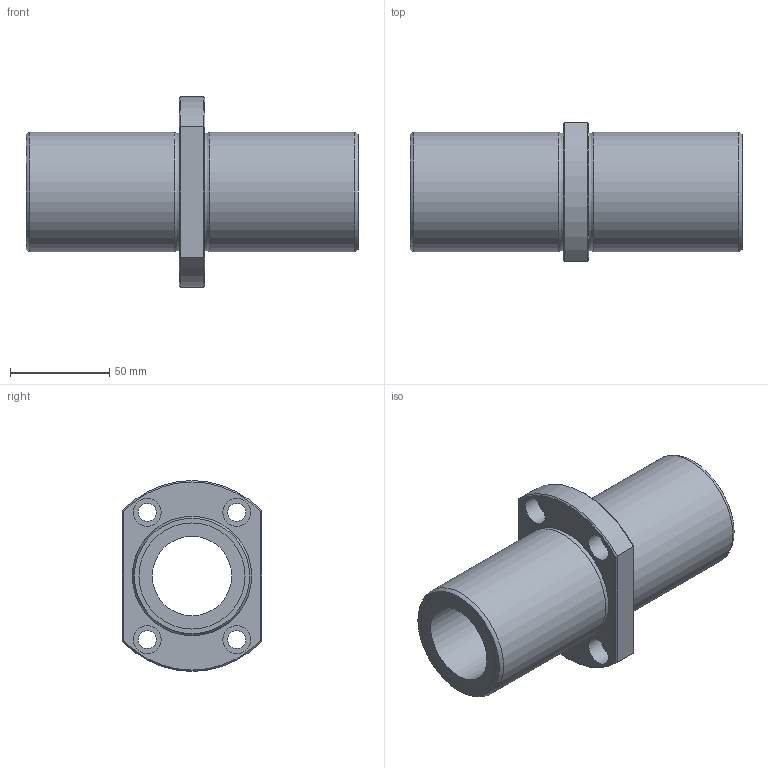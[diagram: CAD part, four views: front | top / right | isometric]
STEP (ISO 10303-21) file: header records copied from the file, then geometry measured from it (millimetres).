
FILE_DESCRIPTION((''),'2;1');
FILE_NAME('C:\Documents and Settings\土屋\My Documents\土屋移動用フォルダ\製品 (図面)\カタログ用3D\変換ファイル\OZAK_3D-CAD(STEP形式)\Part1.-Linear Bearings_ﾘﾆｱﾍﾞｱﾘﾝｸﾞ\09_Maintenance Free_ﾒｲﾝﾃﾅﾝｽﾌﾘｰ\L2017-09-21T15:13:07','2017-09-21T15:13:07',('y'),(''),'Autodesk Inventor 11','Autodesk Inventor 11','');
FILE_SCHEMA(('AUTOMOTIVE_DESIGN { 1 0 10303 214 1 1 1 1 }'));
Length unit declared in the file: millimetre
Products named in the file (1): LFDTC-MF
Bounding box: 167 x 70 x 96 mm (x, y, z)
Volume: 296969.9 mm3; surface area: 64529.9 mm2
Topology: 1 solids, 1 shells, 39 faces, 75 edges, 46 vertices
Faces by surface type: plane 16, cylinder 15, cone 4, torus 2, bspline 2
Full cylindrical faces by diameter (mm): 9 x4, 14 x4, 40 x1, 53.4 x2, 60 x2
Entity records: 1073 total; most frequent: CARTESIAN_POINT 292, DIRECTION 164, ORIENTED_EDGE 116, AXIS2_PLACEMENT_3D 76, EDGE_LOOP 74, EDGE_CURVE 58, VERTEX_POINT 46, FACE_OUTER_BOUND 39
